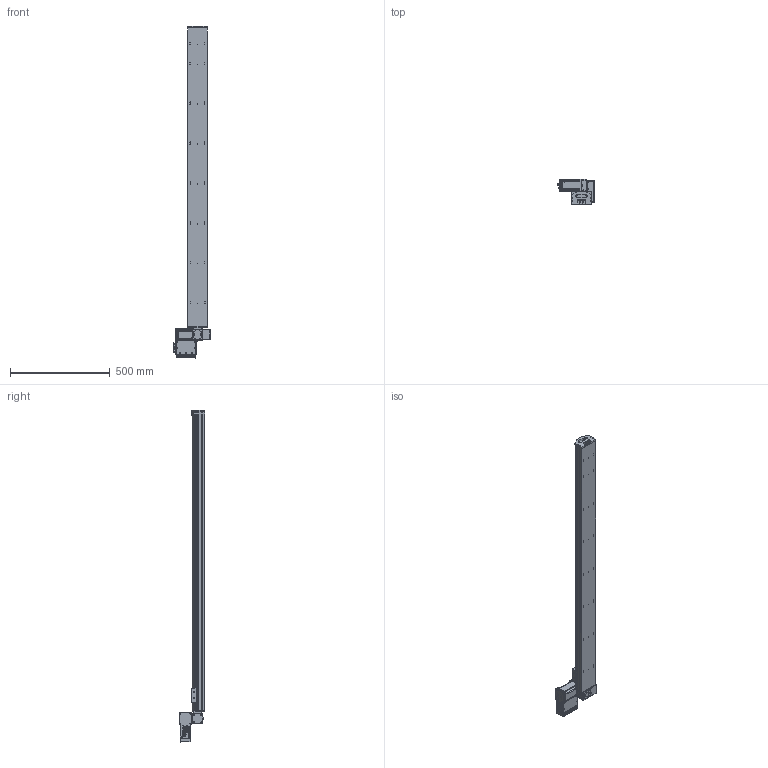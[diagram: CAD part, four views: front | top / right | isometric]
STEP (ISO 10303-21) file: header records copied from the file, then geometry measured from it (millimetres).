
FILE_DESCRIPTION (( 'STEP AP203' ), '1' );
FILE_NAME ('S10 TBN LT S1500.STEP', '2012-06-19T09:50:46', ( 'Conseil Régional Haute-Normandie' ), ( 'Conseil Régional Haute-Normandie' ), 'SwSTEP 2.0', 'SolidWorks 2010', '' );
FILE_SCHEMA (( 'CONFIG_CONTROL_DESIGN' ));
Products named in the file (29): T_X2_00F4_X0_le lat_X2_00E9_X0_rale_5; Vis TF 3 torkx_1_1; cache t皻e axe_Default; cache t皻e_Default; Plaque racord_Default; renvoi LH_Default; vis M5 L12_Default; Vis M5 L16-2_Default_1; Assem1_7; Couvercle_3; Moteur 60BLDC90A_3; T_X2_00F4_X0_le fond_3; Colonnette ronde_3; T_X2_00F4_X0_le Arri_X2_00E8_X0_re_5; embout; palette tbn; plaque de bout s10_Default; vis M5 L5_Default; axe 1500; S10 TBN LT S1500; Cvis M5 L30_Default; T_X2_00F4_X0_le contre le moteur_5; BU41 Carte Alimentation P05_3; Colonnette_3; BU45 Carte d''axe A11_5; Connecteur rond D10 3cts_5; Connecteur rond D12 4cts_5; Sub D 9cts 90_X2_00B_X0__3; Radiateur profil_X2_00E9_X0_ 100x25_3
Assembly tree (62 placements, depth 3):
  S10 TBN LT S1500
    Cvis M5 L30_Default  x2
    plaque de bout s10_Default
    axe 1500
    cache t皻e_Default  x2
    vis M5 L5_Default  x4
    Vis M5 L16-2_Default_1  x4
    Plaque racord_Default
    vis M5 L12_Default  x4
    renvoi LH_Default
    cache t皻e axe_Default
    palette tbn
    embout
    Assem1_7
      T_X2_00F4_X0_le fond_3
      Connecteur rond D10 3cts_5  x2
      Radiateur profil_X2_00E9_X0_ 100x25_3
      Vis TF 3 torkx_1_1  x21
      T_X2_00F4_X0_le lat_X2_00E9_X0_rale_5  x2
      T_X2_00F4_X0_le Arri_X2_00E8_X0_re_5
      Connecteur rond D12 4cts_5
      BU45 Carte d''axe A11_5
      Colonnette_3  x2
      Colonnette ronde_3
      Moteur 60BLDC90A_3
      T_X2_00F4_X0_le contre le moteur_5
      BU41 Carte Alimentation P05_3
      Couvercle_3
      Sub D 9cts 90_X2_00B_X0__3
Bounding box: 189.8 x 127 x 1666.51 mm (x, y, z)
Volume: 8607494.6 mm3; surface area: 1025311.3 mm2
Topology: 61 solids, 61 shells, 2299 faces, 5703 edges, 3682 vertices
Faces by surface type: plane 1096, cylinder 986, cone 174, bspline 40, torus 3
Entity records: 47756 total; most frequent: CARTESIAN_POINT 8622, DIRECTION 7702, ORIENTED_EDGE 7002, EDGE_CURVE 3501, AXIS2_PLACEMENT_3D 2861, VERTEX_POINT 2286, LINE 1980, VECTOR 1980
